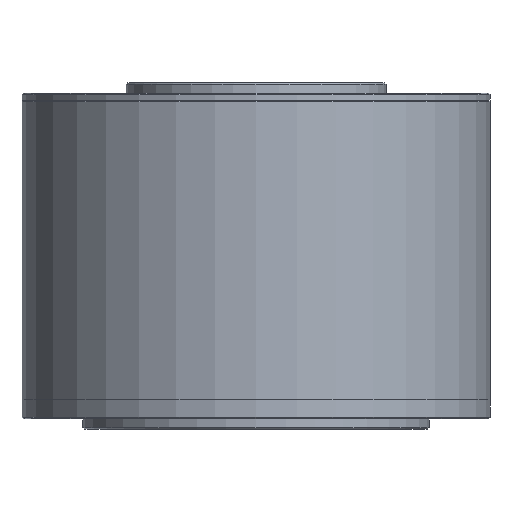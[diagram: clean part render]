
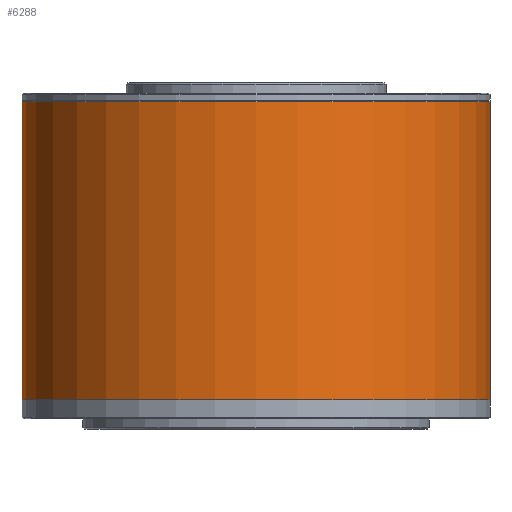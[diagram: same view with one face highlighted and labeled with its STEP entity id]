
A CAD part, front view. The second image highlights one B-rep face of the part: STEP entity #6288.
In plain terms, the highlighted cylindrical face has radius 67.5 mm (diameter 135 mm), a partial arc.
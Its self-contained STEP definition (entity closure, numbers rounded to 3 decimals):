
#4036=CARTESIAN_POINT('',(0.,0.,-40.));
#4037=DIRECTION('',(0.,0.,-1.));
#4038=DIRECTION('',(1.,0.,0.));
#4039=AXIS2_PLACEMENT_3D('',#4036,#4037,#4038);
#4165=DIRECTION('',(0.,0.,-1.));
#4166=VECTOR('',#4165,86.);
#4167=CARTESIAN_POINT('',(67.5,0.,46.));
#4168=LINE('',#4167,#4166);
#4243=DIRECTION('',(0.,0.,-1.));
#4244=VECTOR('',#4243,86.);
#4245=CARTESIAN_POINT('',(-67.5,0.,46.));
#4246=LINE('',#4245,#4244);
#4251=CARTESIAN_POINT('',(0.,0.,46.));
#4252=DIRECTION('',(0.,0.,1.));
#4253=DIRECTION('',(-1.,0.,0.));
#4254=AXIS2_PLACEMENT_3D('',#4251,#4252,#4253);
#5937=CARTESIAN_POINT('',(-67.5,0.,46.));
#5938=CARTESIAN_POINT('',(67.5,0.,46.));
#5939=VERTEX_POINT('',#5937);
#5940=VERTEX_POINT('',#5938);
#5941=CARTESIAN_POINT('',(67.5,0.,-40.));
#5942=CARTESIAN_POINT('',(-67.5,0.,-40.));
#5943=VERTEX_POINT('',#5941);
#5944=VERTEX_POINT('',#5942);
#6276=CARTESIAN_POINT('',(0.,0.,71.691));
#6277=DIRECTION('',(0.,0.,1.));
#6278=DIRECTION('',(1.,0.,0.));
#6279=AXIS2_PLACEMENT_3D('',#6276,#6277,#6278);
#6280=CYLINDRICAL_SURFACE('',#6279,67.5);
#6281=ORIENTED_EDGE('',*,*,#6137,.F.);
#6283=ORIENTED_EDGE('',*,*,#6282,.T.);
#6284=ORIENTED_EDGE('',*,*,#6133,.T.);
#6285=ORIENTED_EDGE('',*,*,#6048,.T.);
#6286=EDGE_LOOP('',(#6281,#6283,#6284,#6285));
#6287=FACE_OUTER_BOUND('',#6286,.F.);
#6288=ADVANCED_FACE('',(#6287),#6280,.T.);
#4040=CIRCLE('',#4039,67.5);
#4255=CIRCLE('',#4254,67.5);
#6048=EDGE_CURVE('',#5943,#5944,#4040,.T.);
#6133=EDGE_CURVE('',#5940,#5943,#4168,.T.);
#6137=EDGE_CURVE('',#5939,#5944,#4246,.T.);
#6282=EDGE_CURVE('',#5939,#5940,#4255,.T.);
